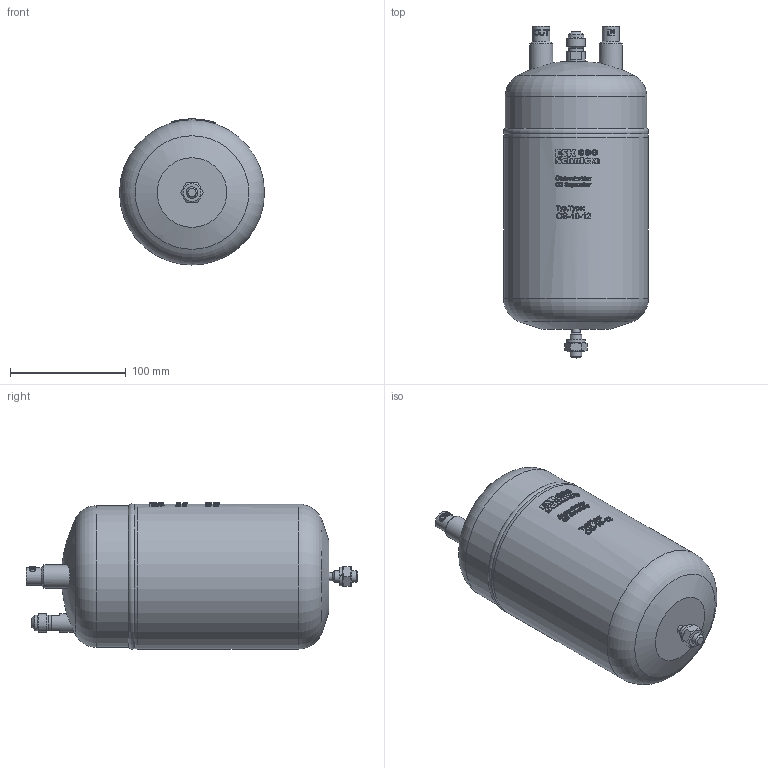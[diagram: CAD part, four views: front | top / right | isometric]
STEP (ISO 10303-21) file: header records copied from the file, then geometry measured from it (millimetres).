
FILE_DESCRIPTION(/* description */ (''),/* implementation_level */ '2;1');
FILE_NAME(/* name */ 'P:\OS\OS-10-12\OS-10-12.stp',/* time_stamp */ '2017-10-04T07:56:15+02:00',/* author */ ('neufeld'),/* organization */ (''),/* preprocessor_version */ 'ST-DEVELOPER v16.1',/* originating_system */ 'Autodesk Inventor 2016',/* authorisation */ '');
FILE_SCHEMA (('AUTOMOTIVE_DESIGN { 1 0 10303 214 3 1 1 }'));
Length unit declared in the file: millimetre
Products named in the file (2): OS-10-12; OS-10-12_1
Assembly tree (1 placements, depth 2):
  OS-10-12_1
    OS-10-12
Bounding box: 125.13 x 286.3 x 126.07 mm (x, y, z)
Volume: 2637829 mm3; surface area: 111210.2 mm2
Topology: 1 solids, 1 shells, 1002 faces, 2708 edges, 1800 vertices
Faces by surface type: plane 520, bspline 365, cylinder 102, cone 9, torus 4, sphere 2
Full cylindrical faces by diameter (mm): 7 x1, 7.2 x1, 10 x2, 12.2 x2, 12.9 x1, 13.5 x1, 15 x2, 15.7 x1, 16 x1, 20 x2, 122 x1, 125 x1
Entity records: 38904 total; most frequent: CARTESIAN_POINT 15733, ORIENTED_EDGE 5330, DIRECTION 3881, EDGE_CURVE 2665, VERTEX_POINT 1788, AXIS2_PLACEMENT_3D 1321, LINE 1239, VECTOR 1239
